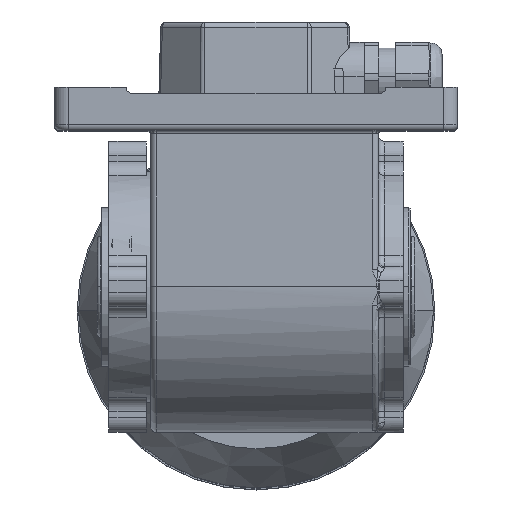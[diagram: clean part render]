
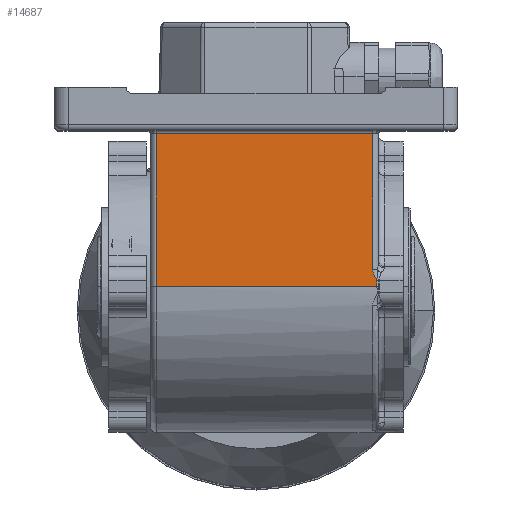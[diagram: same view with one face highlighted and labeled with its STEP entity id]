
A CAD part, top view. The second image highlights one B-rep face of the part: STEP entity #14687.
In plain terms, the highlighted planar face has unit normal (0, 0, 1).
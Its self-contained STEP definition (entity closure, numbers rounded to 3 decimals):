
#342 = EDGE_CURVE ( 'NONE', #10388, #29775, #13808, .T. ) ;
#512 = CARTESIAN_POINT ( 'NONE',  ( 40.89, 12.223, 88. ) ) ;
#758 = EDGE_CURVE ( 'NONE', #20230, #21148, #15480, .T. ) ;
#1223 = CARTESIAN_POINT ( 'NONE',  ( 41.204, 11.591, 88. ) ) ;
#1300 = CARTESIAN_POINT ( 'NONE',  ( -34.5, 61., 88. ) ) ;
#1430 = CARTESIAN_POINT ( 'NONE',  ( 42.5, 61., 88. ) ) ;
#3634 = DIRECTION ( 'NONE',  ( 0., 0., -1. ) ) ;
#3640 = DIRECTION ( 'NONE',  ( 0., 1., 0. ) ) ;
#5904 = VECTOR ( 'NONE', #15306, 1000. ) ;
#6506 = ORIENTED_EDGE ( 'NONE', *, *, #28554, .T. ) ;
#6691 = CARTESIAN_POINT ( 'NONE',  ( 40.5, 13.936, 88. ) ) ;
#6924 = AXIS2_PLACEMENT_3D ( 'NONE', #19950, #3634, #27253 ) ;
#7274 = DIRECTION ( 'NONE',  ( 0., 1., 0. ) ) ;
#7958 = CARTESIAN_POINT ( 'NONE',  ( 42.5, 8., 88. ) ) ;
#8780 = CARTESIAN_POINT ( 'NONE',  ( 40.5, 13.758, 88. ) ) ;
#9128 = CARTESIAN_POINT ( 'NONE',  ( 40.515, 13.58, 88. ) ) ;
#9842 = LINE ( 'NONE', #31361, #23846 ) ;
#10388 = VERTEX_POINT ( 'NONE', #14047 ) ;
#10817 = ORIENTED_EDGE ( 'NONE', *, *, #13798, .F. ) ;
#11418 = CARTESIAN_POINT ( 'NONE',  ( 41.87, 10.347, 88. ) ) ;
#13164 = B_SPLINE_CURVE_WITH_KNOTS ( 'NONE', 3,
 ( #32767, #32940, #16704, #11418, #14374, #24984, #14557, #24616, #1223, #512, #14028, #19148, #25333, #9128, #8780, #33293 ),
 .UNSPECIFIED., .F., .F.,
 ( 4, 2, 2, 2, 2, 2, 2, 4 ),
 ( 0., 0., 0.001, 0.001, 0.002, 0.003, 0.004, 0.004 ),
 .UNSPECIFIED. ) ;
#13798 = EDGE_CURVE ( 'NONE', #10388, #21424, #32115, .T. ) ;
#13808 = LINE ( 'NONE', #24577, #26659 ) ;
#13882 = CARTESIAN_POINT ( 'NONE',  ( -34.5, 8., 88. ) ) ;
#14028 = CARTESIAN_POINT ( 'NONE',  ( 40.753, 12.552, 88. ) ) ;
#14047 = CARTESIAN_POINT ( 'NONE',  ( 41.928, 8., 88. ) ) ;
#14374 = CARTESIAN_POINT ( 'NONE',  ( 41.839, 10.429, 88. ) ) ;
#14506 = FACE_OUTER_BOUND ( 'NONE', #20556, .T. ) ;
#14557 = CARTESIAN_POINT ( 'NONE',  ( 41.646, 10.826, 88. ) ) ;
#14687 = ADVANCED_FACE ( 'NONE', ( #14506 ), #22250, .F. ) ;
#15306 = DIRECTION ( 'NONE',  ( -1., 0., 0. ) ) ;
#15480 = LINE ( 'NONE', #1430, #5904 ) ;
#16704 = CARTESIAN_POINT ( 'NONE',  ( 41.915, 10.178, 88. ) ) ;
#17194 = EDGE_CURVE ( 'NONE', #21148, #21424, #9842, .T. ) ;
#17963 = ORIENTED_EDGE ( 'NONE', *, *, #758, .T. ) ;
#19148 = CARTESIAN_POINT ( 'NONE',  ( 40.607, 13.059, 88. ) ) ;
#19950 = CARTESIAN_POINT ( 'NONE',  ( 42.5, 61., 88. ) ) ;
#20054 = ORIENTED_EDGE ( 'NONE', *, *, #17194, .T. ) ;
#20230 = VERTEX_POINT ( 'NONE', #33704 ) ;
#20556 = EDGE_LOOP ( 'NONE', ( #27875, #6506, #17963, #20054, #10817, #30873 ) ) ;
#21148 = VERTEX_POINT ( 'NONE', #1300 ) ;
#21239 = VECTOR ( 'NONE', #7274, 1000. ) ;
#21424 = VERTEX_POINT ( 'NONE', #13882 ) ;
#22250 = PLANE ( 'NONE',  #6924 ) ;
#23846 = VECTOR ( 'NONE', #26065, 1000. ) ;
#23942 = VERTEX_POINT ( 'NONE', #6691 ) ;
#24135 = DIRECTION ( 'NONE',  ( -1., 0., 0. ) ) ;
#24577 = CARTESIAN_POINT ( 'NONE',  ( 41.928, 61., 88. ) ) ;
#24616 = CARTESIAN_POINT ( 'NONE',  ( 41.384, 11.287, 88. ) ) ;
#24957 = EDGE_CURVE ( 'NONE', #29775, #23942, #13164, .T. ) ;
#24984 = CARTESIAN_POINT ( 'NONE',  ( 41.732, 10.671, 88. ) ) ;
#25333 = CARTESIAN_POINT ( 'NONE',  ( 40.568, 13.231, 88. ) ) ;
#25414 = LINE ( 'NONE', #31248, #21239 ) ;
#26065 = DIRECTION ( 'NONE',  ( 0., -1., 0. ) ) ;
#26659 = VECTOR ( 'NONE', #3640, 1000. ) ;
#27253 = DIRECTION ( 'NONE',  ( 0., 1., 0. ) ) ;
#27875 = ORIENTED_EDGE ( 'NONE', *, *, #24957, .T. ) ;
#28554 = EDGE_CURVE ( 'NONE', #23942, #20230, #25414, .T. ) ;
#29124 = CARTESIAN_POINT ( 'NONE',  ( 41.928, 10., 88. ) ) ;
#29775 = VERTEX_POINT ( 'NONE', #29124 ) ;
#30873 = ORIENTED_EDGE ( 'NONE', *, *, #342, .T. ) ;
#31248 = CARTESIAN_POINT ( 'NONE',  ( 40.5, 61., 88. ) ) ;
#31361 = CARTESIAN_POINT ( 'NONE',  ( -34.5, 61., 88. ) ) ;
#32115 = LINE ( 'NONE', #7958, #32768 ) ;
#32767 = CARTESIAN_POINT ( 'NONE',  ( 41.928, 10., 88. ) ) ;
#32768 = VECTOR ( 'NONE', #24135, 1000. ) ;
#32940 = CARTESIAN_POINT ( 'NONE',  ( 41.928, 10.089, 88. ) ) ;
#33293 = CARTESIAN_POINT ( 'NONE',  ( 40.5, 13.936, 88. ) ) ;
#33704 = CARTESIAN_POINT ( 'NONE',  ( 40.5, 61., 88. ) ) ;
